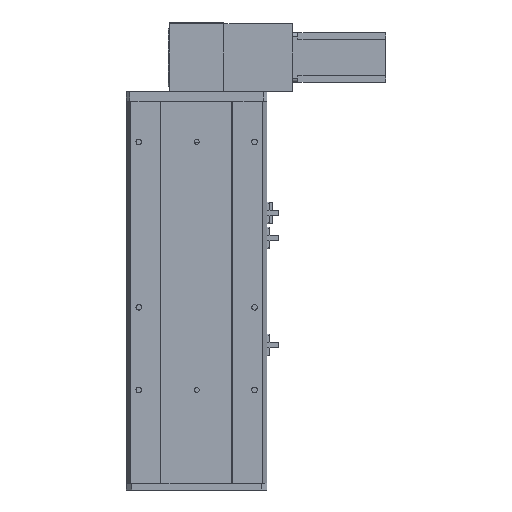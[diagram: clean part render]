
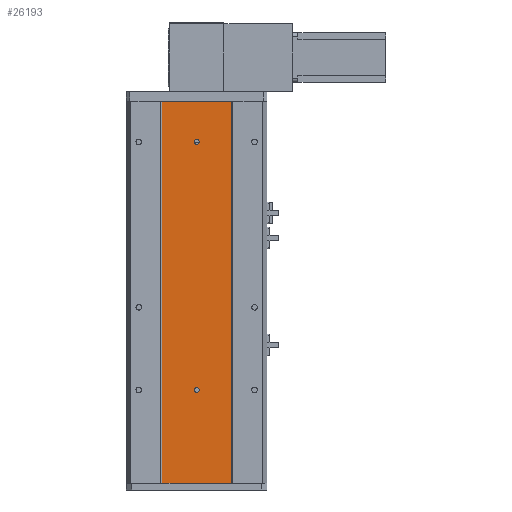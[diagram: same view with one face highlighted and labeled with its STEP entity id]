
A CAD part, front view. The second image highlights one B-rep face of the part: STEP entity #26193.
In plain terms, the highlighted planar face has unit normal (0, -1, 0).
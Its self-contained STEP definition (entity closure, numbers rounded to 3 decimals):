
#279 = CARTESIAN_POINT ( 'NONE',  ( 85., 2.57, 416. ) ) ;
#451 = CARTESIAN_POINT ( 'NONE',  ( 85., 2.57, 413. ) ) ;
#700 = DIRECTION ( 'NONE',  ( 0., 0., 1. ) ) ;
#1008 = CARTESIAN_POINT ( 'NONE',  ( 42.916, 2.57, 462. ) ) ;
#1394 = ORIENTED_EDGE ( 'NONE', *, *, #24938, .F. ) ;
#1931 = VERTEX_POINT ( 'NONE', #16111 ) ;
#2714 = DIRECTION ( 'NONE',  ( 0., 0., 1. ) ) ;
#3349 = CARTESIAN_POINT ( 'NONE',  ( 42.916, 2.57, 0. ) ) ;
#3778 = ORIENTED_EDGE ( 'NONE', *, *, #5690, .T. ) ;
#4235 = AXIS2_PLACEMENT_3D ( 'NONE', #451, #15698, #2714 ) ;
#4287 = DIRECTION ( 'NONE',  ( -1., 0., 0. ) ) ;
#4682 = ORIENTED_EDGE ( 'NONE', *, *, #12762, .T. ) ;
#4820 = FACE_OUTER_BOUND ( 'NONE', #21606, .T. ) ;
#4918 = ORIENTED_EDGE ( 'NONE', *, *, #9919, .T. ) ;
#5212 = ORIENTED_EDGE ( 'NONE', *, *, #14869, .F. ) ;
#5420 = VERTEX_POINT ( 'NONE', #279 ) ;
#5482 = PLANE ( 'NONE',  #17066 ) ;
#5538 = FACE_BOUND ( 'NONE', #14821, .T. ) ;
#5690 = EDGE_CURVE ( 'NONE', #8929, #26164, #15081, .T. ) ;
#5717 = EDGE_LOOP ( 'NONE', ( #4682, #26902 ) ) ;
#5935 = DIRECTION ( 'NONE',  ( 0., 1., 0. ) ) ;
#6231 = LINE ( 'NONE', #26115, #10626 ) ;
#6341 = VERTEX_POINT ( 'NONE', #10759 ) ;
#7668 = DIRECTION ( 'NONE',  ( -1., 0., 0. ) ) ;
#7919 = AXIS2_PLACEMENT_3D ( 'NONE', #22311, #5935, #12354 ) ;
#8157 = CARTESIAN_POINT ( 'NONE',  ( 42.916, 2.57, 462. ) ) ;
#8724 = CIRCLE ( 'NONE', #13250, 3. ) ;
#8929 = VERTEX_POINT ( 'NONE', #9022 ) ;
#9022 = CARTESIAN_POINT ( 'NONE',  ( 126.916, 2.57, 462. ) ) ;
#9675 = VECTOR ( 'NONE', #700, 1000. ) ;
#9919 = EDGE_CURVE ( 'NONE', #6341, #5420, #8724, .T. ) ;
#9941 = DIRECTION ( 'NONE',  ( 0., 1., 0. ) ) ;
#10610 = FACE_BOUND ( 'NONE', #5717, .T. ) ;
#10626 = VECTOR ( 'NONE', #24098, 1000. ) ;
#10759 = CARTESIAN_POINT ( 'NONE',  ( 85., 2.57, 410. ) ) ;
#12354 = DIRECTION ( 'NONE',  ( 0., 0., 1. ) ) ;
#12577 = DIRECTION ( 'NONE',  ( 0., 1., 0. ) ) ;
#12762 = EDGE_CURVE ( 'NONE', #15695, #14364, #18912, .T. ) ;
#12807 = LINE ( 'NONE', #21410, #23322 ) ;
#13250 = AXIS2_PLACEMENT_3D ( 'NONE', #14984, #14949, #14853 ) ;
#14325 = CIRCLE ( 'NONE', #15299, 3. ) ;
#14364 = VERTEX_POINT ( 'NONE', #19979 ) ;
#14465 = ORIENTED_EDGE ( 'NONE', *, *, #25437, .T. ) ;
#14821 = EDGE_LOOP ( 'NONE', ( #4918, #14465 ) ) ;
#14853 = DIRECTION ( 'NONE',  ( 0., 0., 1. ) ) ;
#14869 = EDGE_CURVE ( 'NONE', #26963, #1931, #12807, .T. ) ;
#14949 = DIRECTION ( 'NONE',  ( 0., 1., 0. ) ) ;
#14984 = CARTESIAN_POINT ( 'NONE',  ( 85., 2.57, 413. ) ) ;
#15081 = LINE ( 'NONE', #8157, #25450 ) ;
#15299 = AXIS2_PLACEMENT_3D ( 'NONE', #25094, #12577, #27134 ) ;
#15695 = VERTEX_POINT ( 'NONE', #21995 ) ;
#15698 = DIRECTION ( 'NONE',  ( 0., 1., 0. ) ) ;
#16111 = CARTESIAN_POINT ( 'NONE',  ( 42.916, 2.57, 0. ) ) ;
#16309 = CIRCLE ( 'NONE', #4235, 3. ) ;
#17066 = AXIS2_PLACEMENT_3D ( 'NONE', #3349, #9941, #24642 ) ;
#18017 = CARTESIAN_POINT ( 'NONE',  ( 126.916, 2.57, 0. ) ) ;
#18912 = CIRCLE ( 'NONE', #7919, 3. ) ;
#19709 = CARTESIAN_POINT ( 'NONE',  ( 126.916, 2.57, 0. ) ) ;
#19979 = CARTESIAN_POINT ( 'NONE',  ( 85., 2.57, 116. ) ) ;
#20926 = ORIENTED_EDGE ( 'NONE', *, *, #24255, .T. ) ;
#21410 = CARTESIAN_POINT ( 'NONE',  ( 42.916, 2.57, 0. ) ) ;
#21606 = EDGE_LOOP ( 'NONE', ( #3778, #1394, #5212, #20926 ) ) ;
#21995 = CARTESIAN_POINT ( 'NONE',  ( 85., 2.57, 110. ) ) ;
#22311 = CARTESIAN_POINT ( 'NONE',  ( 85., 2.57, 113. ) ) ;
#23322 = VECTOR ( 'NONE', #4287, 1000. ) ;
#24098 = DIRECTION ( 'NONE',  ( 0., 0., 1. ) ) ;
#24255 = EDGE_CURVE ( 'NONE', #26963, #8929, #25720, .T. ) ;
#24642 = DIRECTION ( 'NONE',  ( 0., 0., 1. ) ) ;
#24938 = EDGE_CURVE ( 'NONE', #1931, #26164, #6231, .T. ) ;
#25094 = CARTESIAN_POINT ( 'NONE',  ( 85., 2.57, 113. ) ) ;
#25437 = EDGE_CURVE ( 'NONE', #5420, #6341, #16309, .T. ) ;
#25450 = VECTOR ( 'NONE', #7668, 1000. ) ;
#25720 = LINE ( 'NONE', #18017, #9675 ) ;
#25778 = EDGE_CURVE ( 'NONE', #14364, #15695, #14325, .T. ) ;
#26115 = CARTESIAN_POINT ( 'NONE',  ( 42.916, 2.57, 0. ) ) ;
#26164 = VERTEX_POINT ( 'NONE', #1008 ) ;
#26193 = ADVANCED_FACE ( 'NONE', ( #5538, #10610, #4820 ), #5482, .F. ) ;
#26902 = ORIENTED_EDGE ( 'NONE', *, *, #25778, .T. ) ;
#26963 = VERTEX_POINT ( 'NONE', #19709 ) ;
#27134 = DIRECTION ( 'NONE',  ( 0., 0., 1. ) ) ;
